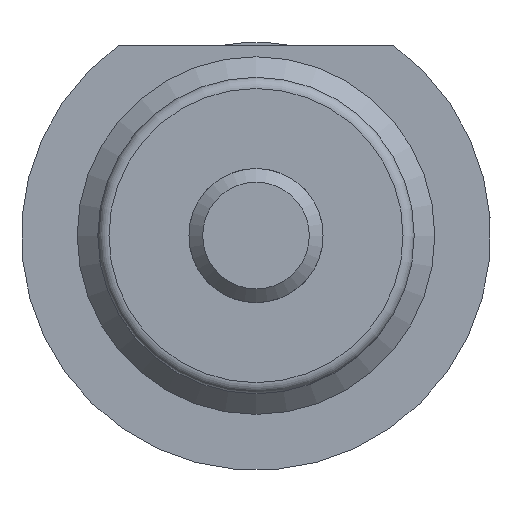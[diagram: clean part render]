
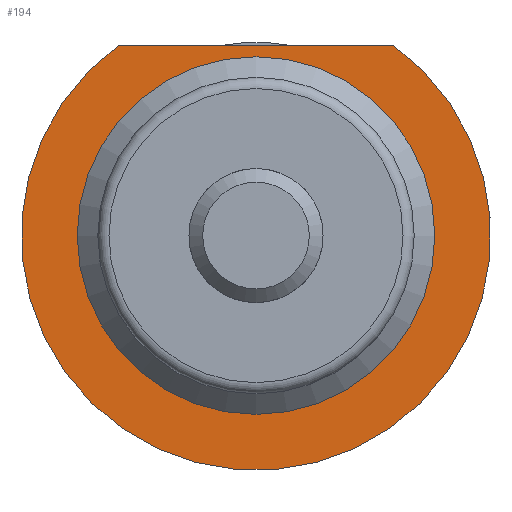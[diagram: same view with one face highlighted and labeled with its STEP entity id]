
A CAD part, left-side view. The second image highlights one B-rep face of the part: STEP entity #194.
In plain terms, the highlighted planar face has unit normal (-1, 0, 0).
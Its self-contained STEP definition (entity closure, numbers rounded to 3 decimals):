
#194 = ADVANCED_FACE( '', ( #309, #310 ), #311, .F. );
#309 = FACE_OUTER_BOUND( '', #493, .T. );
#310 = FACE_BOUND( '', #494, .T. );
#311 = PLANE( '', #495 );
#493 = EDGE_LOOP( '', ( #748, #749 ) );
#494 = EDGE_LOOP( '', ( #750 ) );
#495 = AXIS2_PLACEMENT_3D( '', #751, #752, #753 );
#748 = ORIENTED_EDGE( '', *, *, #1041, .F. );
#749 = ORIENTED_EDGE( '', *, *, #1042, .T. );
#750 = ORIENTED_EDGE( '', *, *, #1038, .T. );
#751 = CARTESIAN_POINT( '', ( 0., 8., 0. ) );
#752 = DIRECTION( '', ( 1., 0., 0. ) );
#753 = DIRECTION( '', ( 0., 0., -1. ) );
#1038 = EDGE_CURVE( '', #1168, #1168, #1169, .T. );
#1041 = EDGE_CURVE( '', #1172, #1173, #1174, .T. );
#1042 = EDGE_CURVE( '', #1172, #1173, #1175, .T. );
#1168 = VERTEX_POINT( '', #1435 );
#1169 = CIRCLE( '', #1436, 8. );
#1172 = VERTEX_POINT( '', #1439 );
#1173 = VERTEX_POINT( '', #1440 );
#1174 = CIRCLE( '', #1441, 10.5 );
#1175 = LINE( '', #1442, #1443 );
#1435 = CARTESIAN_POINT( '', ( 0., 0., -8. ) );
#1436 = AXIS2_PLACEMENT_3D( '', #1646, #1647, #1648 );
#1439 = CARTESIAN_POINT( '', ( 0., -6.164, 8.5 ) );
#1440 = CARTESIAN_POINT( '', ( 0., 6.164, 8.5 ) );
#1441 = AXIS2_PLACEMENT_3D( '', #1655, #1656, #1657 );
#1442 = CARTESIAN_POINT( '', ( 0., -34.6, 8.5 ) );
#1443 = VECTOR( '', #1658, 1000. );
#1646 = CARTESIAN_POINT( '', ( 0., 0., 0. ) );
#1647 = DIRECTION( '', ( 1., 0., 0. ) );
#1648 = DIRECTION( '', ( 0., 0., -1. ) );
#1655 = CARTESIAN_POINT( '', ( 0., 0., 0. ) );
#1656 = DIRECTION( '', ( 1., 0., 0. ) );
#1657 = DIRECTION( '', ( 0., 0., -1. ) );
#1658 = DIRECTION( '', ( 0., 1., 0. ) );
